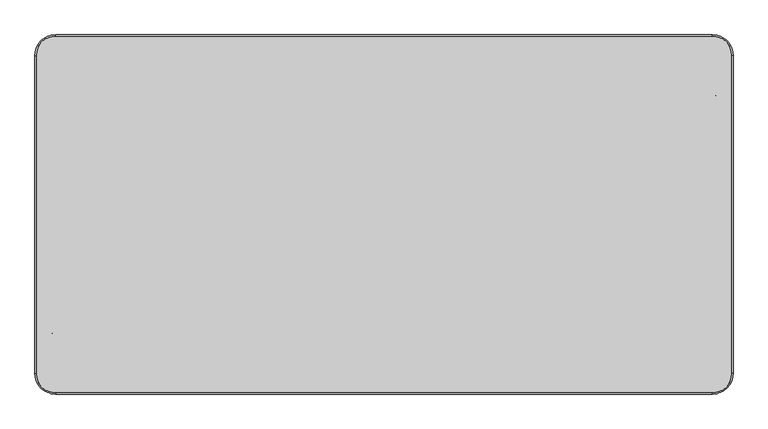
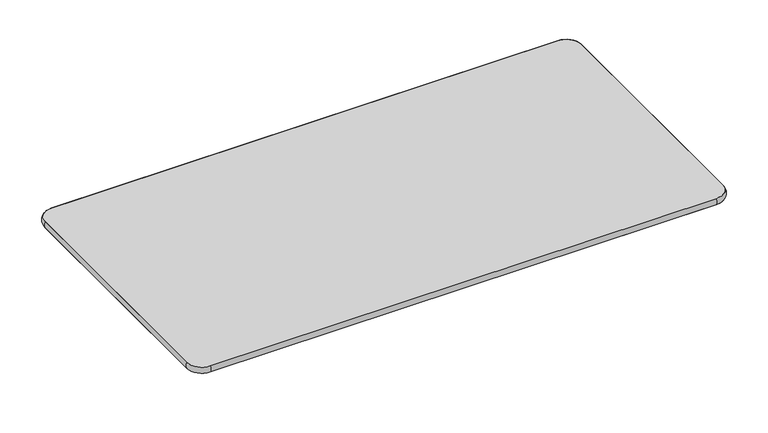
"""IFC4 building model written with IfcOpenShell, lengths in millimetres: furniture geometry, Mesa para refeitório : Mesa para refeitório 150x77cm cód 70474.2."""

from ifc_helpers import new_model, si_unit, point, frame, frame_2d, origin, place, context, project, spatial, polyline, circle_curve, ellipse_curve, trimmed, segment, composite_curve, outline, extrude, source, transform, mapped, element, save
from ifc_brep_helpers import plane_surface, cylinder_surface, revolved_surface, advanced_brep


def furniture_416f7891(model_context):
    return source(origin(), model_context, "Body", "SolidModel", [
        extrude(outline(composite_curve([segment(polyline([(-655.6618953, -127.5875081), (-717.0206397, -341.5708799), (-729.5170418, -337.9875943)]), True, "CONTINUOUS"), segment(trimmed(circle_curve(frame_2d((-728.138855, -333.1812858)), 5.0), [point((-729.5170418, -337.9875943))], [point((-732.9451635, -331.803099))], False, "CARTESIAN"), True, "CONTINUOUS"), segment(polyline([(-732.9451635, -331.803099), (-674.3872851, -127.5875081), (-655.6618953, -127.5875081)]), True, "CONTINUOUS")], self_intersect=False)), frame((0.0, 0.0, 510.0), z_axis=(0.0, 0.0, 1.0), x_axis=(1.0, 0.0, 0.0)), (0.0, 0.0, 1.0), 2.0),
        extrude(outline(composite_curve([segment(polyline([(655.6618953, 127.5875081), (717.0206397, 341.5708799), (729.5170418, 337.9875943)]), True, "CONTINUOUS"), segment(trimmed(circle_curve(frame_2d((728.138855, 333.1812858)), 5.0), [point((729.5170418, 337.9875943))], [point((732.9451635, 331.803099))], False, "CARTESIAN"), True, "CONTINUOUS"), segment(polyline([(732.9451635, 331.803099), (674.3872851, 127.5875081), (655.6618953, 127.5875081)]), True, "CONTINUOUS")], self_intersect=False)), frame((0.0, 0.0, 510.0), z_axis=(0.0, 0.0, 1.0), x_axis=(1.0, 0.0, 0.0)), (0.0, 0.0, 1.0), 2.0),
        extrude(outline(composite_curve([segment(polyline([(655.6618953, -127.5875081), (674.3872851, -127.5875081), (732.9451635, -331.803099)]), True, "CONTINUOUS"), segment(trimmed(circle_curve(frame_2d((728.138855, -333.1812858)), 5.0), [point((732.9451635, -331.803099))], [point((729.5170418, -337.9875943))], False, "CARTESIAN"), True, "CONTINUOUS"), segment(polyline([(729.5170418, -337.9875943), (717.0206397, -341.5708799), (655.6618953, -127.5875081)]), True, "CONTINUOUS")], self_intersect=False)), frame((0.0, 0.0, 510.0), z_axis=(0.0, 0.0, 1.0), x_axis=(1.0, 0.0, 0.0)), (0.0, 0.0, 1.0), 2.0),
        extrude(outline(composite_curve([segment(polyline([(655.6618953, -42.5875081), (673.7270534, -42.5875081), (673.7270534, -140.8530223)]), True, "CONTINUOUS"), segment(trimmed(circle_curve(frame_2d((668.7270534, -140.8530223)), 5.0), [point((673.7270534, -140.8530223))], [point((668.7270534, -145.8530223))], False, "CARTESIAN"), True, "CONTINUOUS"), segment(polyline([(668.7270534, -145.8530223), (655.6618953, -145.8530223), (655.6618953, -42.5875081)]), True, "CONTINUOUS")], self_intersect=False)), frame((0.0, 0.0, 510.0), z_axis=(0.0, 0.0, 1.0), x_axis=(1.0, 0.0, 0.0)), (0.0, 0.0, 1.0), 2.0),
        extrude(outline(polyline([(-649.6955742, 28.681337), (-649.6955742, -28.681337), (-651.5529394, -28.1300623), (-651.5529394, 28.1300623), (-649.6955742, 28.681337)])), frame((0.0, 0.0, 452.0), z_axis=(0.0, 0.0, 1.0), x_axis=(1.0, 0.0, 0.0)), (0.0, 0.0, 1.0), 60.0),
        extrude(outline(composite_curve([segment(polyline([(-60.1181829, 0.0), (0.0, 0.0), (0.0, -229.4943371)]), True, "CONTINUOUS"), segment(trimmed(circle_curve(frame_2d((-8.0489664, -229.4943371)), 8.0489664), [point((0.0, -229.4943371))], [point((-15.3438074, -232.8959773))], False, "CARTESIAN"), True, "CONTINUOUS"), segment(polyline([(-15.3438074, -232.8959773), (-60.1181829, 0.0)]), True, "CONTINUOUS")], self_intersect=False)), frame((-649.6955742, -28.681337, 512.0), z_axis=(-0.961261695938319, 0.2756373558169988, 0.0), x_axis=(0.0, 0.0, 1.0)), (0.0, 0.0, 1.0), 1.932216),
        extrude(outline(composite_curve([segment(polyline([(60.1181829, 0.0), (15.3438074, -232.8959773)]), True, "CONTINUOUS"), segment(trimmed(circle_curve(frame_2d((8.0489664, -229.4943371)), 8.0489664), [point((15.3438074, -232.8959773))], [point((0.0, -229.4943371))], False, "CARTESIAN"), True, "CONTINUOUS"), segment(polyline([(0.0, -229.4943371), (0.0, 0.0), (60.1181829, 0.0)]), True, "CONTINUOUS")], self_intersect=False)), frame((651.5162894, 28.1300623, 512.0), z_axis=(-0.961261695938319, 0.2756373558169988, 0.0), x_axis=(0.0, 0.0, -1.0)), (0.0, 0.0, 1.0), 2.0),
        extrude(outline(polyline([(649.593766, 28.681337), (651.5162894, 28.1300623), (651.5162894, -28.1300623), (649.593766, -28.681337), (649.593766, 28.681337)])), frame((0.0, 0.0, 452.0), z_axis=(0.0, 0.0, 1.0), x_axis=(1.0, 0.0, 0.0)), (0.0, 0.0, 1.0), 60.0),
        extrude(outline(composite_curve([segment(polyline([(-2.0, -20.0), (-2.0, -351.247878), (-15.0, -351.247878)]), True, "CONTINUOUS"), segment(trimmed(circle_curve(frame_2d((-15.0, -346.247878)), 5.0), [point((-15.0, -351.247878))], [point((-20.0, -346.247878))], False, "CARTESIAN"), True, "CONTINUOUS"), segment(polyline([(-20.0, -346.247878), (-20.0, -20.0), (-2.0, -20.0)]), True, "CONTINUOUS")], self_intersect=False)), frame((0.0, 0.0, 510.0), z_axis=(0.0, 0.0, 1.0), x_axis=(1.0, 0.0, 0.0)), (0.0, 0.0, 1.0), 2.0),
        extrude(outline(composite_curve([segment(polyline([(-20.0, 453.2373612), (-351.247878, 496.6561926)]), True, "CONTINUOUS"), segment(trimmed(circle_curve(frame_2d((-347.8462378, 503.9510336)), 8.0489664), [point((-351.247878, 496.6561926))], [point((-347.8462378, 512.0))], False, "CARTESIAN"), True, "CONTINUOUS"), segment(polyline([(-347.8462378, 512.0), (-20.0, 512.0), (-20.0, 453.2373612)]), True, "CONTINUOUS")], self_intersect=False)), frame((-2.0, 0.0, 0.0), z_axis=(1.0, 0.0, 0.0), x_axis=(0.0, 1.0, 0.0)), (0.0, 0.0, 1.0), 2.0),
        extrude(outline(composite_curve([segment(polyline([(0.0, 0.0), (237.1608757, 0.0)]), True, "CONTINUOUS"), segment(trimmed(circle_curve(frame_2d((235.1976245, -7.8058636)), 8.0489664), [point((237.1608757, 0.0))], [point((236.7172151, -15.7100843))], False, "CARTESIAN"), True, "CONTINUOUS"), segment(polyline([(236.7172151, -15.7100843), (11.3499079, -59.0370689), (0.0, 0.0)]), True, "CONTINUOUS")], self_intersect=False)), frame((649.593766, -28.681337, 451.8818171), z_axis=(0.9612616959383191, 0.27563735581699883, 0.0), x_axis=(0.2706805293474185, -0.9439751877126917, 0.1887932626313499)), (0.0, 0.0, 1.0), 2.0),
        extrude(outline(composite_curve([segment(polyline([(-2.0, 20.0), (-20.0, 20.0), (-20.0, 346.247878)]), True, "CONTINUOUS"), segment(trimmed(circle_curve(frame_2d((-15.0, 346.247878)), 5.0), [point((-20.0, 346.247878))], [point((-15.0, 351.247878))], False, "CARTESIAN"), True, "CONTINUOUS"), segment(polyline([(-15.0, 351.247878), (-2.0, 351.247878), (-2.0, 20.0)]), True, "CONTINUOUS")], self_intersect=False)), frame((0.0, 0.0, 510.0), z_axis=(0.0, 0.0, 1.0), x_axis=(1.0, 0.0, 0.0)), (0.0, 0.0, 1.0), 2.0),
        extrude(outline(composite_curve([segment(polyline([(20.0, 453.2373612), (20.0, 512.0), (347.8462378, 512.0)]), True, "CONTINUOUS"), segment(trimmed(circle_curve(frame_2d((347.8462378, 503.9510336)), 8.0489664), [point((347.8462378, 512.0))], [point((351.247878, 496.6561926))], False, "CARTESIAN"), True, "CONTINUOUS"), segment(polyline([(351.247878, 496.6561926), (20.0, 453.2373612)]), True, "CONTINUOUS")], self_intersect=False)), frame((-2.0, 0.0, 0.0), z_axis=(1.0, 0.0, 0.0), x_axis=(0.0, 1.0, 0.0)), (0.0, 0.0, 1.0), 2.0),
        extrude(outline(polyline([(650.0651581, -20.0), (-650.0651581, -20.0), (-650.0651581, 20.0), (650.0651581, 20.0), (650.0651581, -20.0)])), frame((0.0, 0.0, 452.0), z_axis=(0.0, 0.0, 1.0), x_axis=(1.0, 0.0, 0.0)), (0.0, 0.0, 1.0), 60.0),
        advanced_brep(
        [(750.0, -343.1259063, 530.0), (708.1259063, -385.0, 530.0), (708.1259063, -385.0, 512.0), (750.0, -343.1259063, 512.0), (750.0, 343.1259063, 512.0), (750.0, 343.1259063, 530.0), (708.1259063, 385.0, 530.0), (708.1259063, 385.0, 512.0), (-708.2277145, 385.0, 512.0), (-708.2277145, 385.0, 530.0), (-750.0, 343.2277145, 530.0), (-750.0, 343.2277145, 512.0), (-750.0, -343.2277145, 512.0), (-750.0, -343.2277145, 530.0), (-708.2277145, -385.0, 530.0), (-708.2277145, -385.0, 512.0)],
        [
            (0, 1, circle_curve(frame((708.1259063, -343.1259063, 530.0), z_axis=(0.0, 0.0, -1.0), x_axis=(0.0, -1.0, 0.0)), 41.8740937)),
            (1, 2, circle_curve(frame((708.1259063, -371.6032084, 521.0), z_axis=(1.0, 0.0, 0.0), x_axis=(0.0, 1.0, 0.0)), 16.1392077)),
            (2, 3, circle_curve(frame((708.1259063, -343.1259063, 512.0), z_axis=(0.0, 0.0, 1.0), x_axis=(0.0, -1.0, 0.0)), 41.8740937)),
            (3, 0, circle_curve(frame((736.6032084, -343.1259063, 521.0), z_axis=(0.0, -1.0, 0.0), x_axis=(-1.0, 0.0, 0.0)), 16.1392077)),
            (2, 1),
            (0, 3),
            (3, 4),
            (4, 5, circle_curve(frame((736.6032084, 343.1259063, 521.0), z_axis=(0.0, -1.0, 0.0), x_axis=(-1.0, 0.0, 0.0)), 16.1392077)),
            (5, 0),
            (5, 4),
            (6, 5, circle_curve(frame((708.1259063, 343.1259063, 530.0), z_axis=(0.0, 0.0, -1.0), x_axis=(1.0, 0.0, 0.0)), 41.8740937)),
            (4, 7, circle_curve(frame((708.1259063, 343.1259063, 512.0), z_axis=(0.0, 0.0, 1.0), x_axis=(1.0, 0.0, 0.0)), 41.8740937)),
            (7, 6, circle_curve(frame((708.1259063, 371.6032084, 521.0), z_axis=(1.0, 0.0, 0.0), x_axis=(0.0, -1.0, 0.0)), 16.1392077)),
            (6, 7),
            (7, 8),
            (8, 9, circle_curve(frame((-708.2277145, 371.6032084, 521.0), z_axis=(1.0, 0.0, 0.0), x_axis=(0.0, -1.0, 0.0)), 16.1392077)),
            (9, 6),
            (9, 8),
            (10, 9, circle_curve(frame((-708.2277145, 343.2277145, 530.0), z_axis=(0.0, 0.0, -1.0), x_axis=(0.0, 1.0, 0.0)), 41.7722855)),
            (8, 11, circle_curve(frame((-708.2277145, 343.2277145, 512.0), z_axis=(0.0, 0.0, 1.0), x_axis=(0.0, 1.0, 0.0)), 41.7722855)),
            (11, 10, circle_curve(frame((-736.6032084, 343.2277145, 521.0), z_axis=(0.0, 1.0, 0.0), x_axis=(1.0, 0.0, 0.0)), 16.1392077)),
            (10, 11),
            (11, 12),
            (12, 13, circle_curve(frame((-736.6032084, -343.2277145, 521.0), z_axis=(0.0, 1.0, 0.0), x_axis=(1.0, 0.0, 0.0)), 16.1392077)),
            (13, 10),
            (13, 12),
            (14, 13, circle_curve(frame((-708.2277145, -343.2277145, 530.0), z_axis=(0.0, 0.0, -1.0), x_axis=(-1.0, 0.0, 0.0)), 41.7722855)),
            (12, 15, circle_curve(frame((-708.2277145, -343.2277145, 512.0), z_axis=(0.0, 0.0, 1.0), x_axis=(-1.0, 0.0, 0.0)), 41.7722855)),
            (15, 14, circle_curve(frame((-708.2277145, -371.6032084, 521.0), z_axis=(-1.0, 0.0, 0.0), x_axis=(0.0, 1.0, 0.0)), 16.1392077)),
            (14, 15),
            (15, 2),
            (1, 14),
        ],
        [
            revolved_surface(trimmed(ellipse_curve(frame((708.1259063, -371.6032084, 521.0), z_axis=(-1.0, 0.0, 0.0), x_axis=(0.0, 1.0, 0.0)), 16.1392077, 16.1392077), [point((708.1259063, -385.0, 512.0))], [point((708.1259063, -385.0, 530.0))], True, "CARTESIAN"), (708.1259063, -343.1259063, 530.0), (0.0, 0.0, 1.0)),
            revolved_surface(polyline([(708.1259063, -385.0, 530.0), (708.1259063, -385.0, 512.0)]), (708.1259063, -343.1259063, 530.0), (0.0, 0.0, 1.0)),
            cylinder_surface(frame((736.6032084, -343.1259063, 521.0), z_axis=(0.0, -1.0, 0.0), x_axis=(-1.0, 0.0, 0.0)), 16.1392077),
            plane_surface(frame((750.0, -343.1259063, 530.0), z_axis=(-1.0, 0.0, 0.0), x_axis=(0.0, 1.0, 0.0))),
            revolved_surface(trimmed(ellipse_curve(frame((736.6032084, 343.1259063, 521.0), z_axis=(0.0, -1.0, 0.0), x_axis=(-1.0, 0.0, 0.0)), 16.1392077, 16.1392077), [point((750.0, 343.1259063, 512.0))], [point((750.0, 343.1259063, 530.0))], True, "CARTESIAN"), (708.1259063, 343.1259063, 530.0), (0.0, 0.0, 1.0)),
            revolved_surface(polyline([(750.0, 343.1259063, 530.0), (750.0, 343.1259063, 512.0)]), (708.1259063, 343.1259063, 530.0), (0.0, 0.0, 1.0)),
            cylinder_surface(frame((708.1259063, 371.6032084, 521.0), z_axis=(1.0, 0.0, 0.0), x_axis=(0.0, -1.0, 0.0)), 16.1392077),
            plane_surface(frame((708.1259063, 385.0, 530.0), z_axis=(0.0, -1.0, 0.0), x_axis=(-1.0, 0.0, 0.0))),
            revolved_surface(trimmed(ellipse_curve(frame((-708.2277145, 371.6032084, 521.0), z_axis=(1.0, 0.0, 0.0), x_axis=(0.0, -1.0, 0.0)), 16.1392077, 16.1392077), [point((-708.2277145, 385.0, 512.0))], [point((-708.2277145, 385.0, 530.0))], True, "CARTESIAN"), (-708.2277145, 343.2277145, 530.0), (0.0, 0.0, 1.0)),
            revolved_surface(polyline([(-708.2277145, 385.0, 530.0), (-708.2277145, 385.0, 512.0)]), (-708.2277145, 343.2277145, 530.0), (0.0, 0.0, 1.0)),
            cylinder_surface(frame((-736.6032084, 343.2277145, 521.0), z_axis=(0.0, 1.0, 0.0), x_axis=(1.0, 0.0, 0.0)), 16.1392077),
            plane_surface(frame((-750.0, 343.2277145, 530.0), z_axis=(1.0, 0.0, 0.0), x_axis=(0.0, -1.0, 0.0))),
            revolved_surface(trimmed(ellipse_curve(frame((-736.6032084, -343.2277145, 521.0), z_axis=(0.0, 1.0, 0.0), x_axis=(1.0, 0.0, 0.0)), 16.1392077, 16.1392077), [point((-750.0, -343.2277145, 512.0))], [point((-750.0, -343.2277145, 530.0))], True, "CARTESIAN"), (-708.2277145, -343.2277145, 530.0), (0.0, 0.0, 1.0)),
            revolved_surface(polyline([(-750.0, -343.2277145, 530.0), (-750.0, -343.2277145, 512.0)]), (-708.2277145, -343.2277145, 530.0), (0.0, 0.0, 1.0)),
            cylinder_surface(frame((-708.2277145, -371.6032084, 521.0), z_axis=(-1.0, 0.0, 0.0), x_axis=(0.0, 1.0, 0.0)), 16.1392077),
            plane_surface(frame((-708.2277145, -385.0, 530.0), z_axis=(0.0, 1.0, 0.0), x_axis=(1.0, 0.0, 0.0))),
        ],
        [
            (0, [[1, 2, 3, 4]]),
            (1, [[-3, 5, -1, 6]]),
            (2, [[-4, 7, 8, 9]]),
            (3, [[-6, -9, 10, -7]]),
            (4, [[11, -8, 12, 13]]),
            (5, [[-12, -10, -11, 14]]),
            (6, [[-13, 15, 16, 17]]),
            (7, [[-14, -17, 18, -15]]),
            (8, [[19, -16, 20, 21]]),
            (9, [[-20, -18, -19, 22]]),
            (10, [[-21, 23, 24, 25]]),
            (11, [[-22, -25, 26, -23]]),
            (12, [[27, -24, 28, 29]]),
            (13, [[-28, -26, -27, 30]]),
            (14, [[-29, 31, -2, 32]]),
            (15, [[-30, -32, -5, -31]]),
        ],
    ),
        extrude(outline(composite_curve([segment(trimmed(circle_curve(frame_2d((708.1259063, 343.1259063)), 41.8740937), [point((708.1259063, 385.0))], [point((750.0, 343.1259063))], False, "CARTESIAN"), True, "CONTINUOUS"), segment(polyline([(750.0, 343.1259063), (750.0, -343.1259063)]), True, "CONTINUOUS"), segment(trimmed(circle_curve(frame_2d((708.1259063, -343.1259063)), 41.8740937), [point((750.0, -343.1259063))], [point((708.1259063, -385.0))], False, "CARTESIAN"), True, "CONTINUOUS"), segment(polyline([(708.1259063, -385.0), (-708.2277145, -385.0)]), True, "CONTINUOUS"), segment(trimmed(circle_curve(frame_2d((-708.2277145, -343.2277145)), 41.7722855), [point((-708.2277145, -385.0))], [point((-750.0, -343.2277145))], False, "CARTESIAN"), True, "CONTINUOUS"), segment(polyline([(-750.0, -343.2277145), (-750.0, 343.2277145)]), True, "CONTINUOUS"), segment(trimmed(circle_curve(frame_2d((-708.2277145, 343.2277145)), 41.7722855), [point((-750.0, 343.2277145))], [point((-708.2277145, 385.0))], False, "CARTESIAN"), True, "CONTINUOUS"), segment(polyline([(-708.2277145, 385.0), (708.1259063, 385.0)]), True, "CONTINUOUS")], self_intersect=False)), frame((0.0, 0.0, 512.0), z_axis=(0.0, 0.0, 1.0), x_axis=(1.0, 0.0, 0.0)), (0.0, 0.0, 1.0), 18.0),
    ])


if __name__ == "__main__":
    model = new_model("IFC4")
    model_context = context("Model", 3, world=origin())
    ifc_project = project(units=[si_unit("LENGTHUNIT", "METRE", prefix="MILLI")], contexts=[model_context])
    site = spatial("IfcSite", under=ifc_project)
    building = spatial("IfcBuilding", under=site)
    placement = place(None, origin())
    furniture_shape = furniture_416f7891(model_context)
    element("IfcFurniture", 1, ObjectType="Mesa para refeitório : Mesa para refeitório 150x77cm cód 70474.2", at=placement, inside=building, context=model_context, shape_type="MappedRepresentation", body=[
        mapped(furniture_shape, transform((0.0, 0.0, 0.0), x_axis=(1.0, 0.0, 0.0), y_axis=(0.0, 1.0, 0.0), z_axis=(0.0, 0.0, 1.0))),
    ])
    save(model, "model.ifc")
